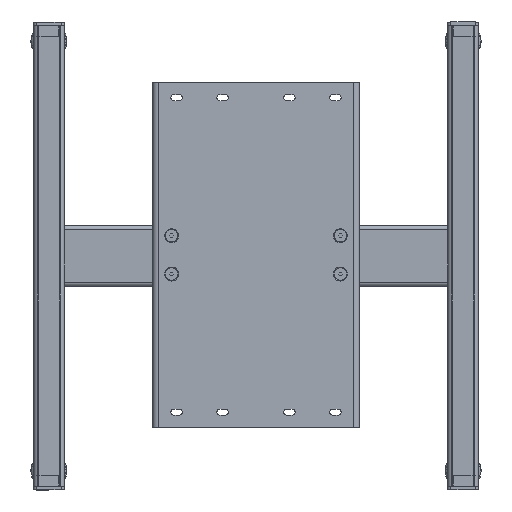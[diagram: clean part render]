
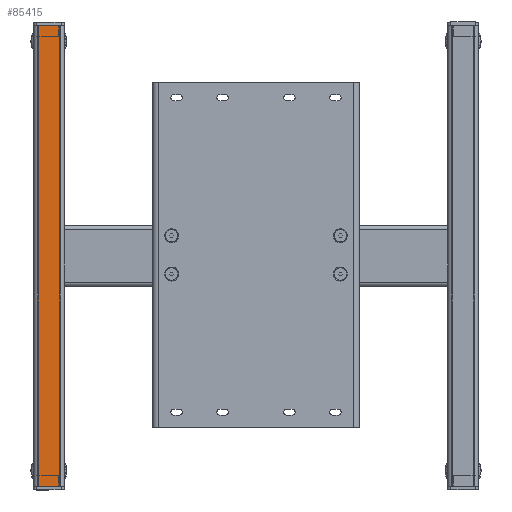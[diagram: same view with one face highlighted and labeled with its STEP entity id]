
A CAD part, top view. The second image highlights one B-rep face of the part: STEP entity #85415.
In plain terms, the highlighted planar face has unit normal (0, 0, 1).
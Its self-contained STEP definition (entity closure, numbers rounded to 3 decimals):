
#24416=ORIENTED_EDGE('',*,*,#34508,.T.);
#24417=ORIENTED_EDGE('',*,*,#34509,.T.);
#24418=ORIENTED_EDGE('',*,*,#34510,.F.);
#24419=ORIENTED_EDGE('',*,*,#34511,.T.);
#34508=EDGE_CURVE('',#41153,#41154,#47569,.T.);
#34509=EDGE_CURVE('',#41154,#41155,#47570,.F.);
#34510=EDGE_CURVE('',#41156,#41155,#47571,.T.);
#34511=EDGE_CURVE('',#41156,#41153,#47572,.T.);
#41153=VERTEX_POINT('',#135173);
#41154=VERTEX_POINT('',#135174);
#41155=VERTEX_POINT('',#135176);
#41156=VERTEX_POINT('',#135178);
#47569=LINE('',#135172,#53925);
#47570=LINE('',#135175,#53926);
#47571=LINE('',#135177,#53927);
#47572=LINE('',#135179,#53928);
#53925=VECTOR('',#110804,1000.);
#53926=VECTOR('',#110805,1000.);
#53927=VECTOR('',#110806,1000.);
#53928=VECTOR('',#110807,1000.);
#57674=EDGE_LOOP('',(#24416,#24417,#24418,#24419));
#61501=FACE_BOUND('',#57674,.T.);
#63615=PLANE('',#91841);
#85415=ADVANCED_FACE('',(#61501),#63615,.F.);
#91841=AXIS2_PLACEMENT_3D('',#135171,#110802,#110803);
#110802=DIRECTION('',(0.,0.,-1.));
#110803=DIRECTION('',(0.,1.,0.));
#110804=DIRECTION('',(0.,-1.,0.));
#110805=DIRECTION('',(-1.,0.,0.));
#110806=DIRECTION('',(0.,-1.,0.));
#110807=DIRECTION('',(-1.,0.,0.));
#135171=CARTESIAN_POINT('',(300.,20.,20.));
#135172=CARTESIAN_POINT('',(-300.,20.,20.));
#135173=CARTESIAN_POINT('',(-300.,14.,20.));
#135174=CARTESIAN_POINT('',(-300.,-14.,20.));
#135175=CARTESIAN_POINT('',(300.,-14.,20.));
#135176=CARTESIAN_POINT('',(300.,-14.,20.));
#135177=CARTESIAN_POINT('',(300.,20.,20.));
#135178=CARTESIAN_POINT('',(300.,14.,20.));
#135179=CARTESIAN_POINT('',(300.,14.,20.));
